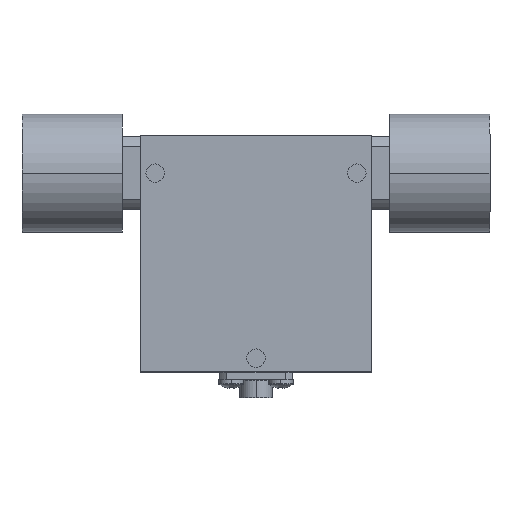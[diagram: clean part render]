
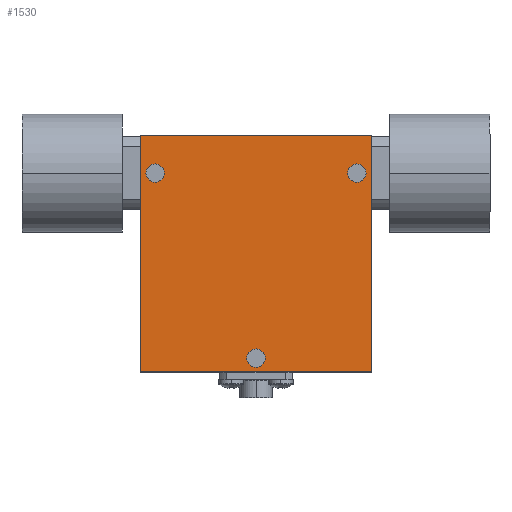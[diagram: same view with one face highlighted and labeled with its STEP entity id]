
A CAD part, top view. The second image highlights one B-rep face of the part: STEP entity #1530.
In plain terms, the highlighted planar face has unit normal (0, 0, 1) as drawn and (0, 0, -1) by its records, which use the part's own axes.
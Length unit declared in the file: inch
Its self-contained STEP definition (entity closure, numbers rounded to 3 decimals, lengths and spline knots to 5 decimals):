
#42 = CARTESIAN_POINT ( 'NONE',  ( 0., -0.715, -0.365 ) ) ;
#129 = VERTEX_POINT ( 'NONE', #3671 ) ;
#143 = EDGE_CURVE ( 'NONE', #886, #3265, #1365, .T. ) ;
#208 = AXIS2_PLACEMENT_3D ( 'NONE', #2408, #326, #2392 ) ;
#241 = ORIENTED_EDGE ( 'NONE', *, *, #812, .T. ) ;
#286 = CARTESIAN_POINT ( 'NONE',  ( 0., 0., -0.365 ) ) ;
#291 = LINE ( 'NONE', #498, #2791 ) ;
#326 = DIRECTION ( 'NONE',  ( 0., 0., 1. ) ) ;
#366 = VERTEX_POINT ( 'NONE', #2062 ) ;
#424 = CARTESIAN_POINT ( 'NONE',  ( -0.79, 0.81, -0.365 ) ) ;
#498 = CARTESIAN_POINT ( 'NONE',  ( -0.79, -0.81, -0.365 ) ) ;
#520 = AXIS2_PLACEMENT_3D ( 'NONE', #42, #3034, #2386 ) ;
#531 = DIRECTION ( 'NONE',  ( 1., 0., 0. ) ) ;
#544 = DIRECTION ( 'NONE',  ( 0., 0., 1. ) ) ;
#586 = VERTEX_POINT ( 'NONE', #3785 ) ;
#587 = DIRECTION ( 'NONE',  ( 0., 0., 1. ) ) ;
#597 = VERTEX_POINT ( 'NONE', #1939 ) ;
#618 = EDGE_CURVE ( 'NONE', #366, #2149, #1223, .T. ) ;
#657 = ORIENTED_EDGE ( 'NONE', *, *, #668, .T. ) ;
#668 = EDGE_CURVE ( 'NONE', #1013, #1048, #3035, .T. ) ;
#682 = ORIENTED_EDGE ( 'NONE', *, *, #1533, .T. ) ;
#701 = VECTOR ( 'NONE', #2410, 39.37008 ) ;
#710 = CARTESIAN_POINT ( 'NONE',  ( -0.79, 0.81, -0.365 ) ) ;
#743 = DIRECTION ( 'NONE',  ( 0., -1., 0. ) ) ;
#748 = ORIENTED_EDGE ( 'NONE', *, *, #2235, .F. ) ;
#784 = CIRCLE ( 'NONE', #208, 0.0625 ) ;
#812 = EDGE_CURVE ( 'NONE', #586, #129, #3076, .T. ) ;
#841 = EDGE_CURVE ( 'NONE', #2149, #366, #900, .T. ) ;
#850 = FACE_OUTER_BOUND ( 'NONE', #1705, .T. ) ;
#886 = VERTEX_POINT ( 'NONE', #2369 ) ;
#900 = CIRCLE ( 'NONE', #1258, 0.0625 ) ;
#947 = FACE_BOUND ( 'NONE', #1490, .T. ) ;
#1013 = VERTEX_POINT ( 'NONE', #2524 ) ;
#1048 = VERTEX_POINT ( 'NONE', #3397 ) ;
#1082 = FACE_BOUND ( 'NONE', #1480, .T. ) ;
#1223 = CIRCLE ( 'NONE', #2772, 0.0625 ) ;
#1258 = AXIS2_PLACEMENT_3D ( 'NONE', #1695, #3517, #531 ) ;
#1338 = LINE ( 'NONE', #710, #3419 ) ;
#1365 = LINE ( 'NONE', #424, #2341 ) ;
#1411 = DIRECTION ( 'NONE',  ( 0., 0., 1. ) ) ;
#1416 = CARTESIAN_POINT ( 'NONE',  ( -0.69, 0.55, -0.365 ) ) ;
#1459 = ORIENTED_EDGE ( 'NONE', *, *, #841, .T. ) ;
#1467 = CARTESIAN_POINT ( 'NONE',  ( 0.79, -0.81, -0.365 ) ) ;
#1480 = EDGE_LOOP ( 'NONE', ( #657, #682 ) ) ;
#1490 = EDGE_LOOP ( 'NONE', ( #2264, #1459 ) ) ;
#1530 = ADVANCED_FACE ( 'NONE', ( #2574, #1082, #947, #850 ), #1771, .F. ) ;
#1533 = EDGE_CURVE ( 'NONE', #1048, #1013, #2391, .T. ) ;
#1695 = CARTESIAN_POINT ( 'NONE',  ( -0.69, 0.55, -0.365 ) ) ;
#1705 = EDGE_LOOP ( 'NONE', ( #748, #3428, #2179, #1954 ) ) ;
#1771 = PLANE ( 'NONE',  #2782 ) ;
#1888 = EDGE_CURVE ( 'NONE', #3265, #2822, #291, .T. ) ;
#1929 = CARTESIAN_POINT ( 'NONE',  ( -0.79, -0.81, -0.365 ) ) ;
#1939 = CARTESIAN_POINT ( 'NONE',  ( 0.79, 0.81, -0.365 ) ) ;
#1950 = DIRECTION ( 'NONE',  ( 1., 0., 0. ) ) ;
#1954 = ORIENTED_EDGE ( 'NONE', *, *, #3411, .F. ) ;
#2025 = DIRECTION ( 'NONE',  ( 1., 0., 0. ) ) ;
#2062 = CARTESIAN_POINT ( 'NONE',  ( -0.6275, 0.55, -0.365 ) ) ;
#2149 = VERTEX_POINT ( 'NONE', #2663 ) ;
#2179 = ORIENTED_EDGE ( 'NONE', *, *, #143, .F. ) ;
#2235 = EDGE_CURVE ( 'NONE', #2822, #597, #2596, .T. ) ;
#2250 = AXIS2_PLACEMENT_3D ( 'NONE', #2903, #1411, #2025 ) ;
#2264 = ORIENTED_EDGE ( 'NONE', *, *, #618, .T. ) ;
#2341 = VECTOR ( 'NONE', #743, 39.37008 ) ;
#2345 = DIRECTION ( 'NONE',  ( 1., 0., 0. ) ) ;
#2369 = CARTESIAN_POINT ( 'NONE',  ( -0.79, 0.81, -0.365 ) ) ;
#2386 = DIRECTION ( 'NONE',  ( 1., 0., 0. ) ) ;
#2391 = CIRCLE ( 'NONE', #2979, 0.0625 ) ;
#2392 = DIRECTION ( 'NONE',  ( 1., 0., 0. ) ) ;
#2408 = CARTESIAN_POINT ( 'NONE',  ( 0.69, 0.55, -0.365 ) ) ;
#2410 = DIRECTION ( 'NONE',  ( 0., 1., 0. ) ) ;
#2490 = EDGE_LOOP ( 'NONE', ( #2959, #241 ) ) ;
#2524 = CARTESIAN_POINT ( 'NONE',  ( 0.0625, -0.715, -0.365 ) ) ;
#2574 = FACE_BOUND ( 'NONE', #2490, .T. ) ;
#2596 = LINE ( 'NONE', #3031, #701 ) ;
#2647 = CARTESIAN_POINT ( 'NONE',  ( 0., -0.715, -0.365 ) ) ;
#2663 = CARTESIAN_POINT ( 'NONE',  ( -0.7525, 0.55, -0.365 ) ) ;
#2772 = AXIS2_PLACEMENT_3D ( 'NONE', #1416, #544, #3761 ) ;
#2774 = DIRECTION ( 'NONE',  ( -1., 0., 0. ) ) ;
#2782 = AXIS2_PLACEMENT_3D ( 'NONE', #286, #3524, #2345 ) ;
#2791 = VECTOR ( 'NONE', #1950, 39.37008 ) ;
#2822 = VERTEX_POINT ( 'NONE', #1467 ) ;
#2903 = CARTESIAN_POINT ( 'NONE',  ( 0.69, 0.55, -0.365 ) ) ;
#2934 = DIRECTION ( 'NONE',  ( 1., 0., 0. ) ) ;
#2959 = ORIENTED_EDGE ( 'NONE', *, *, #3343, .T. ) ;
#2979 = AXIS2_PLACEMENT_3D ( 'NONE', #2647, #587, #2934 ) ;
#3031 = CARTESIAN_POINT ( 'NONE',  ( 0.79, 0.81, -0.365 ) ) ;
#3034 = DIRECTION ( 'NONE',  ( 0., 0., 1. ) ) ;
#3035 = CIRCLE ( 'NONE', #520, 0.0625 ) ;
#3076 = CIRCLE ( 'NONE', #2250, 0.0625 ) ;
#3265 = VERTEX_POINT ( 'NONE', #1929 ) ;
#3343 = EDGE_CURVE ( 'NONE', #129, #586, #784, .T. ) ;
#3397 = CARTESIAN_POINT ( 'NONE',  ( -0.0625, -0.715, -0.365 ) ) ;
#3411 = EDGE_CURVE ( 'NONE', #597, #886, #1338, .T. ) ;
#3419 = VECTOR ( 'NONE', #2774, 39.37008 ) ;
#3428 = ORIENTED_EDGE ( 'NONE', *, *, #1888, .F. ) ;
#3517 = DIRECTION ( 'NONE',  ( 0., 0., 1. ) ) ;
#3524 = DIRECTION ( 'NONE',  ( 0., 0., 1. ) ) ;
#3671 = CARTESIAN_POINT ( 'NONE',  ( 0.7525, 0.55, -0.365 ) ) ;
#3761 = DIRECTION ( 'NONE',  ( 1., 0., 0. ) ) ;
#3785 = CARTESIAN_POINT ( 'NONE',  ( 0.6275, 0.55, -0.365 ) ) ;
